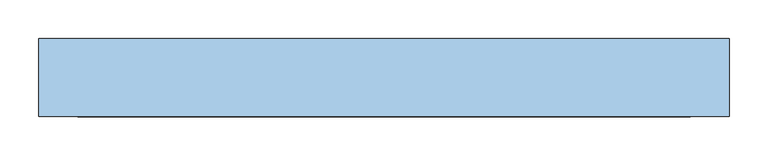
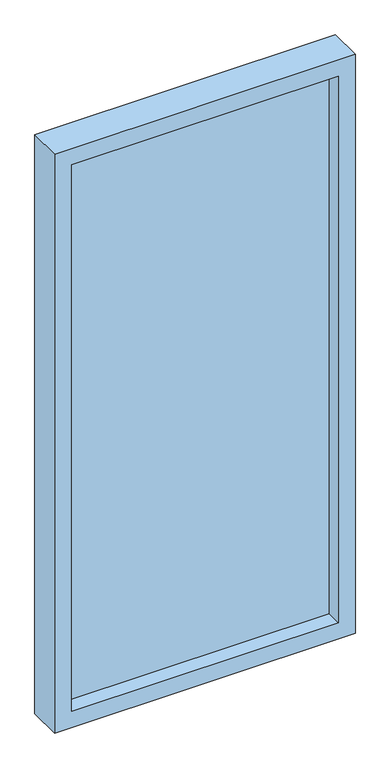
"""IFC4 building model written with IfcOpenShell, lengths in millimetres: window geometry, DFMA Window 1 Bay 2020 V1 : WI.XX, 1 Bay, Type 2."""

from ifc_helpers import new_model, si_unit, frame, origin, place, context, project, spatial, polyline, outline, extrude, source, transform, mapped, element, save


def window_e0563cc2(model_context):
    return source(origin(), model_context, "Body", "SweptSolid", [
        extrude(outline(polyline([(392.5, -16.8), (392.5, -23.2), (-392.5, -23.2), (-392.5, -16.8), (392.5, -16.8)])), frame((0.0, 0.0, 650.0), z_axis=(0.0, 0.0, 1.0), x_axis=(1.0, 0.0, 0.0)), (0.0, 0.0, 1.0), 1700.0),
        extrude(outline(polyline([(2400.0, 442.5), (2400.0, -442.5), (600.0, -442.5), (600.0, 442.5), (2400.0, 442.5)]), holes=[polyline([(650.0, 392.5), (650.0, -392.5), (2350.0, -392.5), (2350.0, 392.5), (650.0, 392.5)])]), frame((0.0, -70.0, 0.0), z_axis=(0.0, 1.0, 0.0), x_axis=(0.0, 0.0, 1.0)), (0.0, 0.0, 1.0), 100.0),
    ])


if __name__ == "__main__":
    model = new_model("IFC4")
    model_context = context("Model", 3, world=origin())
    ifc_project = project(units=[si_unit("LENGTHUNIT", "METRE", prefix="MILLI")], contexts=[model_context])
    site = spatial("IfcSite", under=ifc_project)
    building = spatial("IfcBuilding", under=site)
    placement = place(None, origin())
    window_shape = window_e0563cc2(model_context)
    element("IfcWindow", 1, ObjectType="DFMA Window 1 Bay 2020 V1 : WI.XX, 1 Bay, Type 2", at=placement, inside=building, context=model_context, shape_type="MappedRepresentation", body=[
        mapped(window_shape, transform((0.0, 0.0, 0.0), x_axis=(1.0, 0.0, 0.0), y_axis=(0.0, 1.0, 0.0), z_axis=(0.0, 0.0, 1.0))),
    ])
    save(model, "model.ifc")
